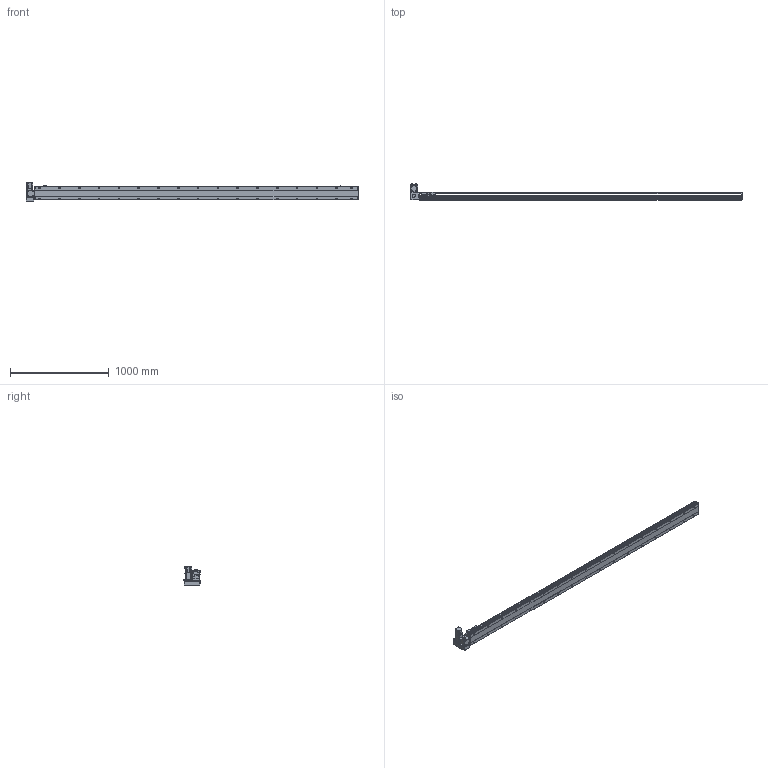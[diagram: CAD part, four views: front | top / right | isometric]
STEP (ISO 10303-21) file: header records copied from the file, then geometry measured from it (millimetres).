
FILE_DESCRIPTION( ( 'STEP AP214' ), '1' );
FILE_NAME( 'x:/temp/worker_2/temp/exporttempdir_6476_456_DFGJH/format_0/PBS140-P40-S3000-LU-T40-C1-N(0).stp', '2022-06-07T05:14:09', ( 'License CC BY-ND 4.0' ), ( 'CADENAS' ), ' ', 'PARTsolutions', ' ' );
FILE_SCHEMA( ( 'AUTOMOTIVE_DESIGN { 1 0 10303 214 1 1 1 1 }' ) );
Length unit declared in the file: millimetre
Products named in the file (7): PBS140-P40-S3000-LU-T40-C1-N(0); _PBS140-S3000()_body; _PBS140T-LU_motors; _T40-p1; _PBS140_sliser; _PBS140_plant; _PBS140_sensor
Assembly tree (8 placements, depth 2):
  PBS140-P40-S3000-LU-T40-C1-N(0)
    _PBS140-S3000()_body
    _PBS140T-LU_motors
    _T40-p1
    _PBS140_sliser
    _PBS140_plant
    _PBS140_sensor  x3
Bounding box: 3354 x 162.5 x 189.7 mm (x, y, z)
Volume: 14896735.7 mm3; surface area: 2526664.7 mm2
Topology: 8 solids, 8 shells, 1219 faces, 3196 edges, 2087 vertices
Faces by surface type: plane 746, cylinder 403, cone 60, sphere 8, torus 2
Full cylindrical faces by diameter (mm): 3.242 x4, 4 x2, 4.134 x4, 4.4 x8, 4.5 x2, 4.8 x4, 4.917 x42, 5.5 x7, 6 x2, 7 x36, 7.5 x8, 8 x12, 8.5 x4, 10.5 x34, 14 x1, 30 x2, 50 x2
Entity records: 45067 total; most frequent: CARTESIAN_POINT 7763, DIRECTION 5827, ORIENTED_EDGE 5452, EDGE_CURVE 2726, AXIS2_PLACEMENT_3D 2077, VERTEX_POINT 1917, LINE 1673, VECTOR 1673
